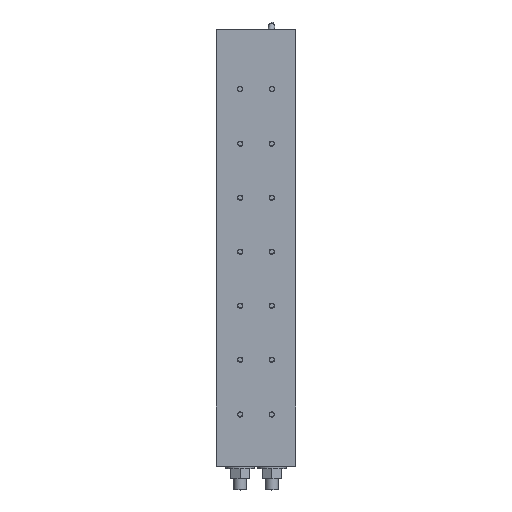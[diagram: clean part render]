
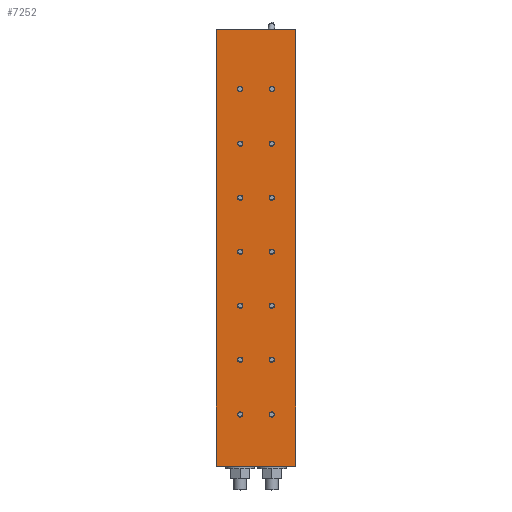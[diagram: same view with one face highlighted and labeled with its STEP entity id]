
A CAD part, top view. The second image highlights one B-rep face of the part: STEP entity #7252.
In plain terms, the highlighted planar face has unit normal (0, 0, 1).
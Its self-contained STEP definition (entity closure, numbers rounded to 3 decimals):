
#1024=LINE('',#12725,#1472);
#1028=LINE('',#12733,#1476);
#1031=LINE('',#12739,#1479);
#1033=LINE('',#12742,#1481);
#1472=VECTOR('',#10726,1000.);
#1476=VECTOR('',#10732,1000.);
#1479=VECTOR('',#10737,1000.);
#1481=VECTOR('',#10741,1000.);
#3020=ORIENTED_EDGE('',*,*,#3941,.F.);
#3021=ORIENTED_EDGE('',*,*,#3942,.F.);
#3022=ORIENTED_EDGE('',*,*,#3943,.F.);
#3023=ORIENTED_EDGE('',*,*,#3944,.F.);
#3024=ORIENTED_EDGE('',*,*,#3945,.F.);
#3025=ORIENTED_EDGE('',*,*,#3946,.F.);
#3026=ORIENTED_EDGE('',*,*,#3947,.F.);
#3027=ORIENTED_EDGE('',*,*,#3948,.F.);
#3028=ORIENTED_EDGE('',*,*,#3949,.F.);
#3029=ORIENTED_EDGE('',*,*,#3950,.F.);
#3030=ORIENTED_EDGE('',*,*,#3951,.F.);
#3031=ORIENTED_EDGE('',*,*,#3952,.F.);
#3032=ORIENTED_EDGE('',*,*,#3953,.F.);
#3033=ORIENTED_EDGE('',*,*,#3954,.F.);
#3034=ORIENTED_EDGE('',*,*,#3931,.T.);
#3035=ORIENTED_EDGE('',*,*,#3935,.T.);
#3036=ORIENTED_EDGE('',*,*,#3938,.T.);
#3037=ORIENTED_EDGE('',*,*,#3940,.T.);
#3931=EDGE_CURVE('',#4601,#4600,#1024,.T.);
#3935=EDGE_CURVE('',#4600,#4603,#1028,.T.);
#3938=EDGE_CURVE('',#4603,#4605,#1031,.T.);
#3940=EDGE_CURVE('',#4605,#4601,#1033,.T.);
#3941=EDGE_CURVE('',#4606,#4606,#4913,.T.);
#3942=EDGE_CURVE('',#4607,#4607,#4914,.T.);
#3943=EDGE_CURVE('',#4608,#4608,#4915,.T.);
#3944=EDGE_CURVE('',#4609,#4609,#4916,.T.);
#3945=EDGE_CURVE('',#4610,#4610,#4917,.T.);
#3946=EDGE_CURVE('',#4611,#4611,#4918,.T.);
#3947=EDGE_CURVE('',#4612,#4612,#4919,.T.);
#3948=EDGE_CURVE('',#4613,#4613,#4920,.T.);
#3949=EDGE_CURVE('',#4614,#4614,#4921,.T.);
#3950=EDGE_CURVE('',#4615,#4615,#4922,.T.);
#3951=EDGE_CURVE('',#4616,#4616,#4923,.T.);
#3952=EDGE_CURVE('',#4617,#4617,#4924,.T.);
#3953=EDGE_CURVE('',#4618,#4618,#4925,.T.);
#3954=EDGE_CURVE('',#4619,#4619,#4926,.T.);
#4600=VERTEX_POINT('',#12724);
#4601=VERTEX_POINT('',#12726);
#4603=VERTEX_POINT('',#12732);
#4605=VERTEX_POINT('',#12738);
#4606=VERTEX_POINT('',#12745);
#4607=VERTEX_POINT('',#12747);
#4608=VERTEX_POINT('',#12749);
#4609=VERTEX_POINT('',#12751);
#4610=VERTEX_POINT('',#12753);
#4611=VERTEX_POINT('',#12755);
#4612=VERTEX_POINT('',#12757);
#4613=VERTEX_POINT('',#12759);
#4614=VERTEX_POINT('',#12761);
#4615=VERTEX_POINT('',#12763);
#4616=VERTEX_POINT('',#12765);
#4617=VERTEX_POINT('',#12767);
#4618=VERTEX_POINT('',#12769);
#4619=VERTEX_POINT('',#12771);
#4913=CIRCLE('',#8640,3.324);
#4914=CIRCLE('',#8641,3.324);
#4915=CIRCLE('',#8642,3.324);
#4916=CIRCLE('',#8643,3.324);
#4917=CIRCLE('',#8644,3.324);
#4918=CIRCLE('',#8645,3.324);
#4919=CIRCLE('',#8646,3.324);
#4920=CIRCLE('',#8647,3.324);
#4921=CIRCLE('',#8648,3.324);
#4922=CIRCLE('',#8649,3.324);
#4923=CIRCLE('',#8650,3.324);
#4924=CIRCLE('',#8651,3.324);
#4925=CIRCLE('',#8652,3.324);
#4926=CIRCLE('',#8653,3.324);
#5709=EDGE_LOOP('',(#3020));
#5710=EDGE_LOOP('',(#3021));
#5711=EDGE_LOOP('',(#3022));
#5712=EDGE_LOOP('',(#3023));
#5713=EDGE_LOOP('',(#3024));
#5714=EDGE_LOOP('',(#3025));
#5715=EDGE_LOOP('',(#3026));
#5716=EDGE_LOOP('',(#3027));
#5717=EDGE_LOOP('',(#3028));
#5718=EDGE_LOOP('',(#3029));
#5719=EDGE_LOOP('',(#3030));
#5720=EDGE_LOOP('',(#3031));
#5721=EDGE_LOOP('',(#3032));
#5722=EDGE_LOOP('',(#3033));
#5723=EDGE_LOOP('',(#3034,#3035,#3036,#3037));
#6575=FACE_BOUND('',#5709,.T.);
#6576=FACE_BOUND('',#5710,.T.);
#6577=FACE_BOUND('',#5711,.T.);
#6578=FACE_BOUND('',#5712,.T.);
#6579=FACE_BOUND('',#5713,.T.);
#6580=FACE_BOUND('',#5714,.T.);
#6581=FACE_BOUND('',#5715,.T.);
#6582=FACE_BOUND('',#5716,.T.);
#6583=FACE_BOUND('',#5717,.T.);
#6584=FACE_BOUND('',#5718,.T.);
#6585=FACE_BOUND('',#5719,.T.);
#6586=FACE_BOUND('',#5720,.T.);
#6587=FACE_BOUND('',#5721,.T.);
#6588=FACE_BOUND('',#5722,.T.);
#6589=FACE_BOUND('',#5723,.T.);
#6827=PLANE('',#8639);
#7252=ADVANCED_FACE('',(#6575,#6576,#6577,#6578,#6579,#6580,#6581,#6582,
#6583,#6584,#6585,#6586,#6587,#6588,#6589),#6827,.T.);
#8639=AXIS2_PLACEMENT_3D('',#12743,#10742,#10743);
#8640=AXIS2_PLACEMENT_3D('',#12744,#10744,#10745);
#8641=AXIS2_PLACEMENT_3D('',#12746,#10746,#10747);
#8642=AXIS2_PLACEMENT_3D('',#12748,#10748,#10749);
#8643=AXIS2_PLACEMENT_3D('',#12750,#10750,#10751);
#8644=AXIS2_PLACEMENT_3D('',#12752,#10752,#10753);
#8645=AXIS2_PLACEMENT_3D('',#12754,#10754,#10755);
#8646=AXIS2_PLACEMENT_3D('',#12756,#10756,#10757);
#8647=AXIS2_PLACEMENT_3D('',#12758,#10758,#10759);
#8648=AXIS2_PLACEMENT_3D('',#12760,#10760,#10761);
#8649=AXIS2_PLACEMENT_3D('',#12762,#10762,#10763);
#8650=AXIS2_PLACEMENT_3D('',#12764,#10764,#10765);
#8651=AXIS2_PLACEMENT_3D('',#12766,#10766,#10767);
#8652=AXIS2_PLACEMENT_3D('',#12768,#10768,#10769);
#8653=AXIS2_PLACEMENT_3D('',#12770,#10770,#10771);
#10726=DIRECTION('',(1.,0.,0.));
#10732=DIRECTION('',(0.,1.,0.));
#10737=DIRECTION('',(-1.,0.,0.));
#10741=DIRECTION('',(0.,-1.,0.));
#10742=DIRECTION('',(0.,0.,1.));
#10743=DIRECTION('',(1.,0.,0.));
#10744=DIRECTION('',(0.,0.,1.));
#10745=DIRECTION('',(0.,1.,0.));
#10746=DIRECTION('',(0.,0.,1.));
#10747=DIRECTION('',(0.,1.,0.));
#10748=DIRECTION('',(0.,0.,1.));
#10749=DIRECTION('',(0.,1.,0.));
#10750=DIRECTION('',(0.,0.,1.));
#10751=DIRECTION('',(0.,1.,0.));
#10752=DIRECTION('',(0.,0.,1.));
#10753=DIRECTION('',(0.,1.,0.));
#10754=DIRECTION('',(0.,0.,1.));
#10755=DIRECTION('',(0.,1.,0.));
#10756=DIRECTION('',(0.,0.,1.));
#10757=DIRECTION('',(0.,1.,0.));
#10758=DIRECTION('',(0.,0.,1.));
#10759=DIRECTION('',(0.,1.,0.));
#10760=DIRECTION('',(0.,0.,1.));
#10761=DIRECTION('',(0.,1.,0.));
#10762=DIRECTION('',(0.,0.,1.));
#10763=DIRECTION('',(0.,1.,0.));
#10764=DIRECTION('',(0.,0.,1.));
#10765=DIRECTION('',(0.,1.,0.));
#10766=DIRECTION('',(0.,0.,1.));
#10767=DIRECTION('',(0.,1.,0.));
#10768=DIRECTION('',(0.,0.,1.));
#10769=DIRECTION('',(0.,1.,0.));
#10770=DIRECTION('',(0.,0.,1.));
#10771=DIRECTION('',(0.,1.,0.));
#12724=CARTESIAN_POINT('',(50.,-275.,20.));
#12725=CARTESIAN_POINT('',(-50.,-275.,20.));
#12726=CARTESIAN_POINT('',(-50.,-275.,20.));
#12732=CARTESIAN_POINT('',(50.,275.,20.));
#12733=CARTESIAN_POINT('',(50.,-275.,20.));
#12738=CARTESIAN_POINT('',(-50.,275.,20.));
#12739=CARTESIAN_POINT('',(50.,275.,20.));
#12742=CARTESIAN_POINT('',(-50.,275.,20.));
#12743=CARTESIAN_POINT('',(0.,0.,20.));
#12744=CARTESIAN_POINT('',(-20.,-200.,20.));
#12745=CARTESIAN_POINT('',(-20.,-196.677,20.));
#12746=CARTESIAN_POINT('',(-20.,-131.,20.));
#12747=CARTESIAN_POINT('',(-20.,-127.677,20.));
#12748=CARTESIAN_POINT('',(-20.,-63.,20.));
#12749=CARTESIAN_POINT('',(-20.,-59.677,20.));
#12750=CARTESIAN_POINT('',(-20.,5.,20.));
#12751=CARTESIAN_POINT('',(-20.,8.324,20.));
#12752=CARTESIAN_POINT('',(-20.,73.,20.));
#12753=CARTESIAN_POINT('',(-20.,76.324,20.));
#12754=CARTESIAN_POINT('',(-20.,141.,20.));
#12755=CARTESIAN_POINT('',(-20.,144.324,20.));
#12756=CARTESIAN_POINT('',(-20.,210.,20.));
#12757=CARTESIAN_POINT('',(-20.,213.324,20.));
#12758=CARTESIAN_POINT('',(20.,210.,20.));
#12759=CARTESIAN_POINT('',(20.,213.324,20.));
#12760=CARTESIAN_POINT('',(20.,141.,20.));
#12761=CARTESIAN_POINT('',(20.,144.324,20.));
#12762=CARTESIAN_POINT('',(20.,73.,20.));
#12763=CARTESIAN_POINT('',(20.,76.324,20.));
#12764=CARTESIAN_POINT('',(20.,5.,20.));
#12765=CARTESIAN_POINT('',(20.,8.324,20.));
#12766=CARTESIAN_POINT('',(20.,-63.,20.));
#12767=CARTESIAN_POINT('',(20.,-59.677,20.));
#12768=CARTESIAN_POINT('',(20.,-131.,20.));
#12769=CARTESIAN_POINT('',(20.,-127.677,20.));
#12770=CARTESIAN_POINT('',(20.,-200.,20.));
#12771=CARTESIAN_POINT('',(20.,-196.677,20.));
